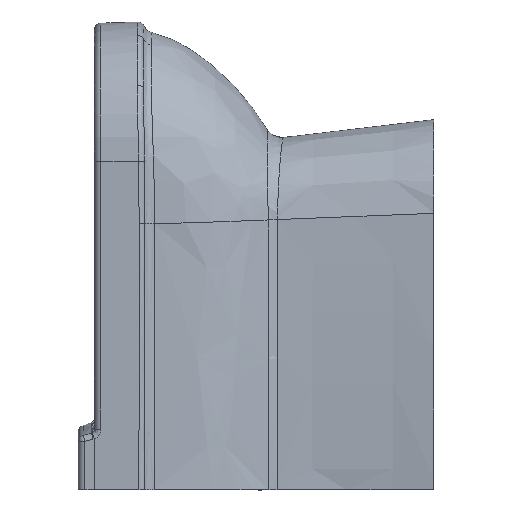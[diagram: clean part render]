
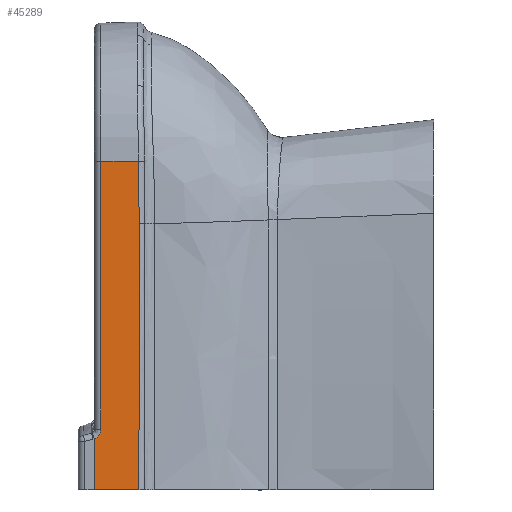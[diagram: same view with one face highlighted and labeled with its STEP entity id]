
A CAD part, left-side view. The second image highlights one B-rep face of the part: STEP entity #45289.
In plain terms, the highlighted planar face has unit normal (-0.999, 0.032, 0.012).
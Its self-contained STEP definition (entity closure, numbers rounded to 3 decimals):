
#2637 = CARTESIAN_POINT ( 'NONE',  ( -174.749, -54.559, 407.133 ) ) ;
#3084 = CARTESIAN_POINT ( 'NONE',  ( -177.219, 0.02, 63.527 ) ) ;
#3622 = VERTEX_POINT ( 'NONE', #59189 ) ;
#4655 = DIRECTION ( 'NONE',  ( -0.012, 0., -1. ) ) ;
#7720 = B_SPLINE_CURVE_WITH_KNOTS ( 'NONE', 3,
 ( #54429, #59010, #42712, #64281, #53723, #54190 ),
 .UNSPECIFIED., .F., .F.,
 ( 4, 2, 4 ),
 ( 0., 0.165, 0.33 ),
 .UNSPECIFIED. ) ;
#8538 = ORIENTED_EDGE ( 'NONE', *, *, #39089, .T. ) ;
#9216 = CARTESIAN_POINT ( 'NONE',  ( -177.345, -7.566, 73.047 ) ) ;
#10161 = ORIENTED_EDGE ( 'NONE', *, *, #52790, .T. ) ;
#10586 = ORIENTED_EDGE ( 'NONE', *, *, #16558, .F. ) ;
#13736 = VECTOR ( 'NONE', #18801, 1000. ) ;
#14967 = CARTESIAN_POINT ( 'NONE',  ( -177.345, -5.992, 68.928 ) ) ;
#16558 = EDGE_CURVE ( 'NONE', #66219, #35540, #21423, .T. ) ;
#17780 = CARTESIAN_POINT ( 'NONE',  ( -177.999, 0., 0.076 ) ) ;
#18226 = CARTESIAN_POINT ( 'NONE',  ( -174.914, -54.775, 394.262 ) ) ;
#18245 = ORIENTED_EDGE ( 'NONE', *, *, #60125, .T. ) ;
#18801 = DIRECTION ( 'NONE',  ( -0.012, 0., -1. ) ) ;
#18904 = CARTESIAN_POINT ( 'NONE',  ( -177.221, 0., 63.425 ) ) ;
#19240 = VERTEX_POINT ( 'NONE', #69619 ) ;
#19988 = CARTESIAN_POINT ( 'NONE',  ( -177.336, -7.744, 74.29 ) ) ;
#20228 = CARTESIAN_POINT ( 'NONE',  ( -177.32, -7.744, 75.564 ) ) ;
#20686 = LINE ( 'NONE', #37047, #54106 ) ;
#21038 = PLANE ( 'NONE',  #59323 ) ;
#21268 = CARTESIAN_POINT ( 'NONE',  ( -177.973, 0., 2.186 ) ) ;
#21423 = LINE ( 'NONE', #62441, #46322 ) ;
#22322 = LINE ( 'NONE', #24563, #13736 ) ;
#23554 = VERTEX_POINT ( 'NONE', #40098 ) ;
#24218 = CARTESIAN_POINT ( 'NONE',  ( -175.565, -55.357, 342.773 ) ) ;
#24563 = CARTESIAN_POINT ( 'NONE',  ( -177.137, 0., 70.222 ) ) ;
#25970 = CARTESIAN_POINT ( 'NONE',  ( -177.327, -4.724, 67.119 ) ) ;
#26202 = CARTESIAN_POINT ( 'NONE',  ( -177.235, -0.562, 63.784 ) ) ;
#26429 = CARTESIAN_POINT ( 'NONE',  ( -177.275, -2.199, 64.764 ) ) ;
#27035 = CARTESIAN_POINT ( 'NONE',  ( -173.248, -7.744, 407.114 ) ) ;
#27827 = CARTESIAN_POINT ( 'NONE',  ( -174.749, -54.559, 407.133 ) ) ;
#29039 = LINE ( 'NONE', #64196, #47929 ) ;
#29238 = CARTESIAN_POINT ( 'NONE',  ( -175.16, -55.057, 374.955 ) ) ;
#30691 = CARTESIAN_POINT ( 'NONE',  ( -174.77, -54.589, 405.524 ) ) ;
#31012 = CARTESIAN_POINT ( 'NONE',  ( -177.336, -5.304, 67.875 ) ) ;
#31246 = EDGE_CURVE ( 'NONE', #3622, #35399, #32929, .T. ) ;
#31485 = CARTESIAN_POINT ( 'NONE',  ( -177.249, -1.125, 64.084 ) ) ;
#32070 = DIRECTION ( 'NONE',  ( -0.012, 0., -1. ) ) ;
#32539 = DIRECTION ( 'NONE',  ( 0.999, -0.032, -0.012 ) ) ;
#32929 = B_SPLINE_CURVE_WITH_KNOTS ( 'NONE', 3,
 ( #20228, #19988, #9216, #42284, #53302, #69840, #59048, #64087, #14967, #48018, #31012, #58819, #25970, #53760, #47319, #64322, #26429, #31485, #26202, #36999 ),
 .UNSPECIFIED., .F., .F.,
 ( 4, 2, 2, 2, 2, 2, 2, 2, 2, 4 ),
 ( 0., 0.004, 0.005, 0.006, 0.008, 0.008, 0.009, 0.011, 0.013, 0.015 ),
 .UNSPECIFIED. ) ;
#35399 = VERTEX_POINT ( 'NONE', #66181 ) ;
#35427 = B_SPLINE_CURVE_WITH_KNOTS ( 'NONE', 3,
 ( #3084, #63254, #35447, #18904 ),
 .UNSPECIFIED., .F., .F.,
 ( 4, 4 ),
 ( 0., 0. ),
 .UNSPECIFIED. ) ;
#35447 = CARTESIAN_POINT ( 'NONE',  ( -177.221, 0., 63.46 ) ) ;
#35540 = VERTEX_POINT ( 'NONE', #27827 ) ;
#35727 = CARTESIAN_POINT ( 'NONE',  ( -174.821, -54.657, 401.502 ) ) ;
#36999 = CARTESIAN_POINT ( 'NONE',  ( -177.219, 0.02, 63.527 ) ) ;
#37047 = CARTESIAN_POINT ( 'NONE',  ( -178.221, -7.744, 2.189 ) ) ;
#39089 = EDGE_CURVE ( 'NONE', #19240, #53645, #7720, .T. ) ;
#40098 = CARTESIAN_POINT ( 'NONE',  ( -177.221, 0., 63.425 ) ) ;
#41272 = ORIENTED_EDGE ( 'NONE', *, *, #42196, .T. ) ;
#41689 = VERTEX_POINT ( 'NONE', #17780 ) ;
#42092 = FACE_OUTER_BOUND ( 'NONE', #48343, .T. ) ;
#42196 = EDGE_CURVE ( 'NONE', #66219, #3622, #20686, .T. ) ;
#42284 = CARTESIAN_POINT ( 'NONE',  ( -177.35, -7.124, 71.53 ) ) ;
#42712 = CARTESIAN_POINT ( 'NONE',  ( -178.42, -55.27, 110.017 ) ) ;
#43337 = B_SPLINE_CURVE_WITH_KNOTS ( 'NONE', 3,
 ( #56342, #24218, #62567, #29238, #50822, #61851, #18226, #56582, #35727, #52750, #30691, #47479, #2637 ),
 .UNSPECIFIED., .F., .F.,
 ( 4, 2, 2, 2, 1, 2, 4 ),
 ( 0., 0.039, 0.058, 0.068, 0.072, 0.075, 0.077 ),
 .UNSPECIFIED. ) ;
#44470 = EDGE_CURVE ( 'NONE', #35399, #23554, #35427, .T. ) ;
#45289 = ADVANCED_FACE ( 'NONE', ( #42092 ), #21038, .F. ) ;
#46322 = VECTOR ( 'NONE', #57417, 1000. ) ;
#47182 = EDGE_CURVE ( 'NONE', #23554, #41689, #22322, .T. ) ;
#47319 = CARTESIAN_POINT ( 'NONE',  ( -177.307, -3.656, 65.958 ) ) ;
#47479 = CARTESIAN_POINT ( 'NONE',  ( -174.759, -54.576, 406.328 ) ) ;
#47654 = ORIENTED_EDGE ( 'NONE', *, *, #47182, .T. ) ;
#47929 = VECTOR ( 'NONE', #55047, 1000. ) ;
#48018 = CARTESIAN_POINT ( 'NONE',  ( -177.339, -5.483, 68.134 ) ) ;
#48343 = EDGE_LOOP ( 'NONE', ( #10586, #41272, #61663, #62214, #47654, #18245, #8538, #10161 ) ) ;
#50822 = CARTESIAN_POINT ( 'NONE',  ( -175.078, -54.97, 381.39 ) ) ;
#52750 = CARTESIAN_POINT ( 'NONE',  ( -174.79, -54.617, 403.915 ) ) ;
#52790 = EDGE_CURVE ( 'NONE', #53645, #35540, #43337, .T. ) ;
#53302 = CARTESIAN_POINT ( 'NONE',  ( -177.35, -7.024, 71.227 ) ) ;
#53645 = VERTEX_POINT ( 'NONE', #60735 ) ;
#53723 = CARTESIAN_POINT ( 'NONE',  ( -176.399, -55.376, 274.93 ) ) ;
#53760 = CARTESIAN_POINT ( 'NONE',  ( -177.316, -4.101, 66.401 ) ) ;
#54106 = VECTOR ( 'NONE', #4655, 1000. ) ;
#54190 = CARTESIAN_POINT ( 'NONE',  ( -175.723, -55.349, 329.9 ) ) ;
#54429 = CARTESIAN_POINT ( 'NONE',  ( -179.764, -55.072, 0.076 ) ) ;
#55047 = DIRECTION ( 'NONE',  ( -0.032, -0.999, 0. ) ) ;
#56342 = CARTESIAN_POINT ( 'NONE',  ( -175.723, -55.349, 329.9 ) ) ;
#56582 = CARTESIAN_POINT ( 'NONE',  ( -174.852, -54.697, 399.088 ) ) ;
#57417 = DIRECTION ( 'NONE',  ( -0.032, -0.999, 0. ) ) ;
#58819 = CARTESIAN_POINT ( 'NONE',  ( -177.33, -4.925, 67.367 ) ) ;
#59010 = CARTESIAN_POINT ( 'NONE',  ( -179.093, -55.189, 55.046 ) ) ;
#59048 = CARTESIAN_POINT ( 'NONE',  ( -177.35, -6.683, 70.339 ) ) ;
#59189 = CARTESIAN_POINT ( 'NONE',  ( -177.32, -7.744, 75.564 ) ) ;
#59323 = AXIS2_PLACEMENT_3D ( 'NONE', #21268, #32539, #32070 ) ;
#60125 = EDGE_CURVE ( 'NONE', #41689, #19240, #29039, .T. ) ;
#60735 = CARTESIAN_POINT ( 'NONE',  ( -175.723, -55.349, 329.9 ) ) ;
#61663 = ORIENTED_EDGE ( 'NONE', *, *, #31246, .T. ) ;
#61851 = CARTESIAN_POINT ( 'NONE',  ( -174.955, -54.826, 391.044 ) ) ;
#62214 = ORIENTED_EDGE ( 'NONE', *, *, #44470, .T. ) ;
#62441 = CARTESIAN_POINT ( 'NONE',  ( -173., 0., 407.111 ) ) ;
#62567 = CARTESIAN_POINT ( 'NONE',  ( -175.404, -55.273, 355.646 ) ) ;
#63254 = CARTESIAN_POINT ( 'NONE',  ( -177.22, 0.006, 63.494 ) ) ;
#64087 = CARTESIAN_POINT ( 'NONE',  ( -177.348, -6.292, 69.48 ) ) ;
#64196 = CARTESIAN_POINT ( 'NONE',  ( -177.999, 0.001, 0.076 ) ) ;
#64281 = CARTESIAN_POINT ( 'NONE',  ( -177.073, -55.362, 219.959 ) ) ;
#64322 = CARTESIAN_POINT ( 'NONE',  ( -177.287, -2.704, 65.139 ) ) ;
#66181 = CARTESIAN_POINT ( 'NONE',  ( -177.219, 0.02, 63.527 ) ) ;
#66219 = VERTEX_POINT ( 'NONE', #27035 ) ;
#69619 = CARTESIAN_POINT ( 'NONE',  ( -179.764, -55.072, 0.076 ) ) ;
#69840 = CARTESIAN_POINT ( 'NONE',  ( -177.351, -6.803, 70.632 ) ) ;
